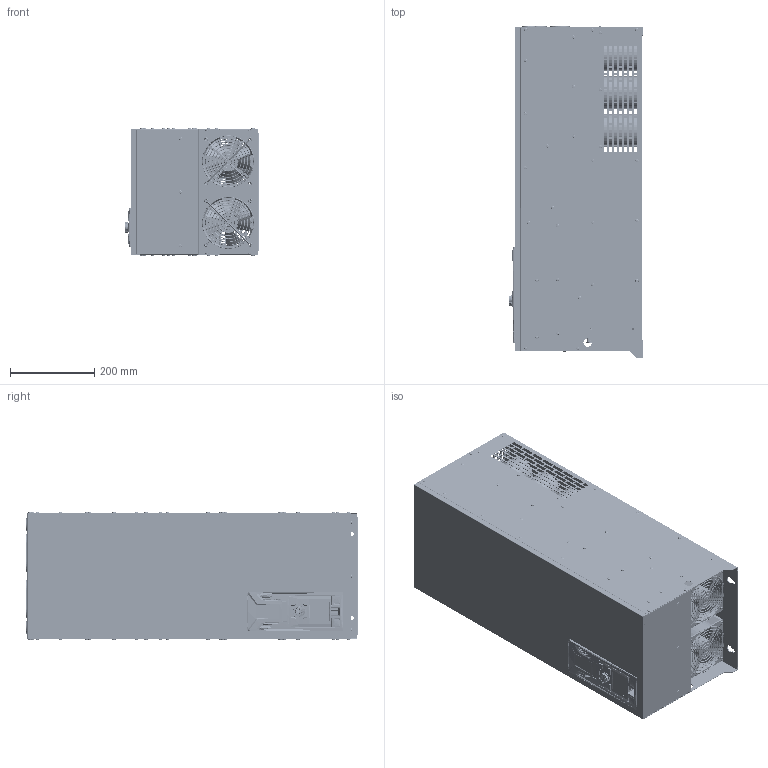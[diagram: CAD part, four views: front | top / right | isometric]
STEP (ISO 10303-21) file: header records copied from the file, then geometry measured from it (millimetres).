
FILE_DESCRIPTION((''),'2;1');
FILE_NAME('700-380-_93-110__ASM','2026-05-06T15:59:31',('23373'),(''),'CREO PARAMETRIC BY PTC INC, 2021023','CREO PARAMETRIC BY PTC INC, 2021023','');
FILE_SCHEMA(('AUTOMOTIVE_DESIGN { 1 0 10303 214 1 1 1 1 }'));
Products named in the file (157): CA700-93KW-SR-01_18; CA700-93KW-SR_ASM_7_ASM; CA700-93KW-BJ-01-01_26; CA700-93KW-BJ-01-01_ASM_20_ASM; CA700-93KW-BJ-01-02_20; S-M4-ZC_42; S-M6-ZC_42; CA700-93KW-BJ-01-02_ASM_15_ASM; CA700-93KW-BJ-01-03_22; SO-3R5M4-16-ZC_49; SO-3R5M3-26-ZC_49; CA700-93KW-BJ-01-03_ASM_22_ASM; CA700-93KW-BJ-01-04_15; CA700-93KW-BJ-01-04_ASM_5_ASM; CA700-93KW-BJ-01-05_12; CA700-93KW-BJ-01-05_ASM_8_ASM; CA700-93KW-BJ-01-06_13; CA700-93KW-BJ-01-06_ASM_10_ASM; CA700-93KW-BJ-01-07_9; CA700-93KW-BJ-01-07_ASM_4_ASM; CA700-93KW-BJ-01-08_10; CA700-93KW-BJ-01-08_ASM_13_ASM; CA700-93KW-BJ-01-09_11; CA700-93KW-BJ-01-09_ASM_13_ASM; CA700-45KW-BJ-01-07_2; D4X8-GB12618-1990_3; CA700-93KW-BJ-01_ASM_32_ASM; CA700-93KW-BJ-02_17; S-M5-ZC_42; CA700-93KW-BJ-02_ASM_8_ASM; CA700-93KW-BJ-03_19; CA700-93KW-BJ-03_ASM_14_ASM; CA700-93KW-BJ-04_12; SO-3R5M3-6-ZC_49; CA700-93KW-BJ-04_ASM_11_ASM; CA700-93KW-BJ-05_10; CA700-93KW-BJ-05_ASM_10_ASM; CA700-93KW-BJ-06_9; CA700-93KW-BJ-06_ASM_8_ASM; CA700-93KW-BJ-07_12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
Assembly tree (383 placements, depth 9):
  700-380-_93-110__ASM
    0CA700-93KW_ASM_39_ASM
      CA700-93KW-SR_ASM_7_ASM
        CA700-93KW-SR-01_18
      CA700-93KW-BJ_ASM_34_ASM
        CA700-93KW-BJ-01_ASM_32_ASM
          CA700-93KW-BJ-01-01_ASM_20_ASM
            CA700-93KW-BJ-01-01_26
          CA700-93KW-BJ-01-02_ASM_15_ASM
            CA700-93KW-BJ-01-02_20
            S-M4-ZC_42  x2
            S-M6-ZC_42  x4
          CA700-93KW-BJ-01-03_ASM_22_ASM
            CA700-93KW-BJ-01-03_22
            S-M4-ZC_42  x18
            SO-3R5M4-16-ZC_49  x6
            SO-3R5M3-26-ZC_49  x4
          CA700-93KW-BJ-01-04_ASM_5_ASM  x2
            CA700-93KW-BJ-01-04_15
            S-M4-ZC_42
          CA700-93KW-BJ-01-05_ASM_8_ASM
            CA700-93KW-BJ-01-05_12
            S-M4-ZC_42  x3
          CA700-93KW-BJ-01-06_ASM_10_ASM
            CA700-93KW-BJ-01-06_13
            S-M4-ZC_42  x3
          CA700-93KW-BJ-01-07_ASM_4_ASM
            CA700-93KW-BJ-01-07_9
          CA700-93KW-BJ-01-08_ASM_13_ASM
            CA700-93KW-BJ-01-08_10
            S-M4-ZC_42  x3
          CA700-93KW-BJ-01-09_ASM_13_ASM
            CA700-93KW-BJ-01-09_11
            S-M4-ZC_42  x3
          CA700-45KW-BJ-01-07_2  x5
          D4X8-GB12618-1990_3  x64
        CA700-93KW-BJ-02_ASM_8_ASM
          CA700-93KW-BJ-02_17
          S-M5-ZC_42  x8
          S-M6-ZC_42  x2
        CA700-93KW-BJ-03_ASM_14_ASM
          CA700-93KW-BJ-03_19
          S-M5-ZC_42  x12
          S-M6-ZC_42  x2
          S-M4-ZC_42
        CA700-93KW-BJ-04_ASM_11_ASM
          CA700-93KW-BJ-04_12
          S-M4-ZC_42
          SO-3R5M3-6-ZC_49  x3
        CA700-93KW-BJ-05_ASM_10_ASM
          CA700-93KW-BJ-05_10
          S-M4-ZC_42  x12
        CA700-93KW-BJ-06_ASM_8_ASM
          CA700-93KW-BJ-06_9
          S-M6-ZC_42  x2
        CA700-93KW-BJ-07_ASM_9_ASM
          CA700-93KW-BJ-07_12
          TPS-4-8-ZC_1  x2
      CA700-93KW-TP_ASM_22_ASM
        CA700-93KW-TP-01_ASM_4_ASM
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Bounding box: 317.73 x 789.1 x 303.4 mm (x, y, z)
Volume: 11129186.7 mm3; surface area: 8268146.8 mm2
Topology: 341 solids, 380 shells, 38409 faces, 104460 edges, 68369 vertices
Faces by surface type: plane 30477, cylinder 5465, cone 1009, bspline 758, torus 290, extrusion 242, revolution 130, sphere 38
Entity records: 708184 total; most frequent: CARTESIAN_POINT 148396, ORIENTED_EDGE 93539, DIRECTION 84876, EDGE_CURVE 46839, VECTOR 35856, LINE 35614, VERTEX_POINT 30427, AXIS2_PLACEMENT_3D 24508
